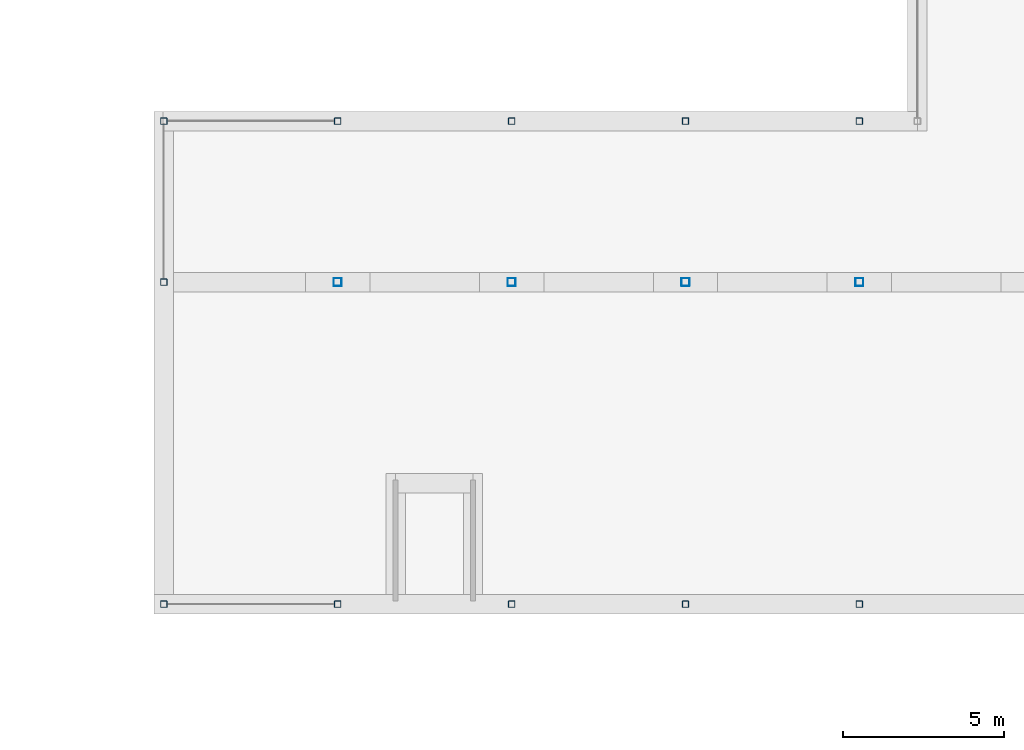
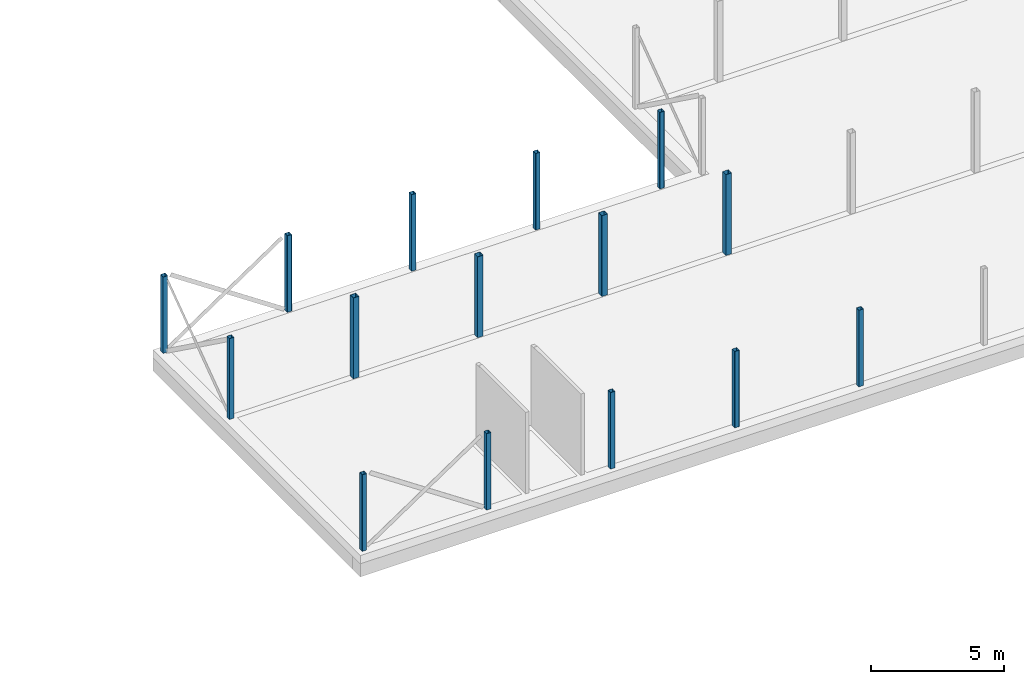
# One storey, part 1 of 12: 15 columns.
"""IFC2X3 building model written with IfcOpenShell, lengths in millimetres."""

from ifc_helpers import new_model, entity, si_unit, converted_unit, derived_unit, direction, frame, frame_2d, origin, place, context, subcontext, project, spatial, polyline, circle_curve, parameter, trimmed, segment, composite_curve, outline, extrude, source, transform, mapped, material, type_object, type_shapes, element, save


model = new_model("IFC2X3")

# Units and contexts
model_context = context("Model", 3, precision=0.01, world=origin(), true_north=direction((6.123031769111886e-17, 1.0)))
body_context = subcontext(model_context, "Body", "Model", "MODEL_VIEW")
ifc_project = project(units=[si_unit("LENGTHUNIT", "METRE", prefix="MILLI"), si_unit("AREAUNIT", "SQUARE_METRE"), si_unit("VOLUMEUNIT", "CUBIC_METRE"), converted_unit("PLANEANGLEUNIT", "DEGREE", entity("IfcPlaneAngleMeasure", 0.017453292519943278), si_unit("PLANEANGLEUNIT", "RADIAN"), dimensions=[0, 0, 0, 0, 0, 0, 0]), si_unit("MASSUNIT", "GRAM", prefix="KILO"), derived_unit("MASSDENSITYUNIT", [(si_unit("MASSUNIT", "GRAM", prefix="KILO"), 1), (si_unit("LENGTHUNIT", "METRE"), -3)]), derived_unit("IONCONCENTRATIONUNIT", [(si_unit("MASSUNIT", "GRAM", prefix="KILO"), 1), (si_unit("LENGTHUNIT", "METRE"), -3)]), derived_unit("MOMENTOFINERTIAUNIT", [(si_unit("LENGTHUNIT", "METRE"), 4)]), si_unit("TIMEUNIT", "SECOND"), si_unit("FREQUENCYUNIT", "HERTZ"), si_unit("THERMODYNAMICTEMPERATUREUNIT", "DEGREE_CELSIUS"), derived_unit("THERMALTRANSMITTANCEUNIT", [(si_unit("MASSUNIT", "GRAM", prefix="KILO"), 1), (si_unit("THERMODYNAMICTEMPERATUREUNIT", "KELVIN"), -1), (si_unit("TIMEUNIT", "SECOND"), -3)]), derived_unit("THERMALCONDUCTANCEUNIT", [(si_unit("MASSUNIT", "GRAM", prefix="KILO"), 1), (si_unit("THERMODYNAMICTEMPERATUREUNIT", "KELVIN"), -1), (si_unit("TIMEUNIT", "SECOND"), -3), (si_unit("LENGTHUNIT", "METRE"), 1)]), derived_unit("VOLUMETRICFLOWRATEUNIT", [(si_unit("LENGTHUNIT", "METRE", prefix="DECI"), 3), (si_unit("TIMEUNIT", "SECOND"), -1)]), derived_unit("MASSFLOWRATEUNIT", [(si_unit("MASSUNIT", "GRAM", prefix="KILO"), 1), (si_unit("TIMEUNIT", "SECOND"), -1)]), derived_unit("ROTATIONALFREQUENCYUNIT", [(si_unit("TIMEUNIT", "SECOND"), -1)]), si_unit("ELECTRICCURRENTUNIT", "AMPERE"), si_unit("ELECTRICVOLTAGEUNIT", "VOLT"), si_unit("POWERUNIT", "WATT"), si_unit("FORCEUNIT", "NEWTON", prefix="KILO"), si_unit("ILLUMINANCEUNIT", "LUX"), si_unit("LUMINOUSFLUXUNIT", "LUMEN"), si_unit("LUMINOUSINTENSITYUNIT", "CANDELA"), si_unit("ENERGYUNIT", "JOULE"), derived_unit("USERDEFINED", [(si_unit("MASSUNIT", "GRAM", prefix="KILO"), -1), (si_unit("LENGTHUNIT", "METRE"), -2), (si_unit("TIMEUNIT", "SECOND"), 3), (si_unit("LUMINOUSFLUXUNIT", "LUMEN"), 1)]), derived_unit("USERDEFINED", [(si_unit("MASSUNIT", "GRAM", prefix="KILO"), 1), (si_unit("TIMEUNIT", "SECOND"), -3), (si_unit("LENGTHUNIT", "METRE"), 3), (si_unit("ELECTRICCURRENTUNIT", "AMPERE"), -2)]), derived_unit("SOUNDPOWERUNIT", [(si_unit("MASSUNIT", "GRAM", prefix="KILO"), 1), (si_unit("TIMEUNIT", "SECOND"), -3), (si_unit("LENGTHUNIT", "METRE"), 2)]), derived_unit("SOUNDPRESSUREUNIT", [(si_unit("MASSUNIT", "GRAM", prefix="KILO"), 1), (si_unit("LENGTHUNIT", "METRE"), -1), (si_unit("TIMEUNIT", "SECOND"), -2)]), derived_unit("LINEARVELOCITYUNIT", [(si_unit("LENGTHUNIT", "METRE"), 1), (si_unit("TIMEUNIT", "SECOND"), -1)]), si_unit("PRESSUREUNIT", "PASCAL"), derived_unit("USERDEFINED", [(si_unit("MASSUNIT", "GRAM", prefix="KILO"), 1), (si_unit("LENGTHUNIT", "METRE"), -2), (si_unit("TIMEUNIT", "SECOND"), -2)]), derived_unit("LINEARFORCEUNIT", [(si_unit("MASSUNIT", "GRAM", prefix="KILO"), 1), (si_unit("TIMEUNIT", "SECOND"), -2)]), derived_unit("PLANARFORCEUNIT", [(si_unit("MASSUNIT", "GRAM", prefix="KILO"), 1), (si_unit("LENGTHUNIT", "METRE"), -1), (si_unit("TIMEUNIT", "SECOND"), -2)]), derived_unit("SPECIFICHEATCAPACITYUNIT", [(si_unit("THERMODYNAMICTEMPERATUREUNIT", "KELVIN"), -1), (si_unit("LENGTHUNIT", "METRE"), 2), (si_unit("TIMEUNIT", "SECOND"), -2)]), derived_unit("HEATFLUXDENSITYUNIT", [(si_unit("MASSUNIT", "GRAM", prefix="KILO"), 1), (si_unit("TIMEUNIT", "SECOND"), -3)]), derived_unit("HEATINGVALUEUNIT", [(si_unit("LENGTHUNIT", "METRE"), 2), (si_unit("TIMEUNIT", "SECOND"), -2)]), derived_unit("VAPORPERMEABILITYUNIT", [(si_unit("LENGTHUNIT", "METRE"), -1), (si_unit("TIMEUNIT", "SECOND"), 1)]), derived_unit("DYNAMICVISCOSITYUNIT", [(si_unit("MASSUNIT", "GRAM", prefix="KILO"), 1), (si_unit("TIMEUNIT", "SECOND"), -1), (si_unit("LENGTHUNIT", "METRE"), -1)]), derived_unit("THERMALEXPANSIONCOEFFICIENTUNIT", [(si_unit("THERMODYNAMICTEMPERATUREUNIT", "KELVIN"), -1)]), derived_unit("MODULUSOFELASTICITYUNIT", [(si_unit("MASSUNIT", "GRAM", prefix="KILO"), 1), (si_unit("LENGTHUNIT", "METRE"), -1), (si_unit("TIMEUNIT", "SECOND"), -2)]), derived_unit("ISOTHERMALMOISTURECAPACITYUNIT", [(si_unit("MASSUNIT", "GRAM", prefix="KILO"), -1), (si_unit("LENGTHUNIT", "METRE"), 3)]), derived_unit("MOISTUREDIFFUSIVITYUNIT", [(si_unit("TIMEUNIT", "SECOND"), -1), (si_unit("LENGTHUNIT", "METRE"), 2)]), derived_unit("MASSPERLENGTHUNIT", [(si_unit("MASSUNIT", "GRAM", prefix="KILO"), 1), (si_unit("LENGTHUNIT", "METRE"), -1)]), derived_unit("THERMALRESISTANCEUNIT", [(si_unit("MASSUNIT", "GRAM", prefix="KILO"), -1), (si_unit("TIMEUNIT", "SECOND"), 3), (si_unit("THERMODYNAMICTEMPERATUREUNIT", "KELVIN"), 1)]), derived_unit("ACCELERATIONUNIT", [(si_unit("LENGTHUNIT", "METRE"), 1), (si_unit("TIMEUNIT", "SECOND"), -2)]), derived_unit("ANGULARVELOCITYUNIT", [(si_unit("TIMEUNIT", "SECOND"), -1), (si_unit("PLANEANGLEUNIT", "RADIAN"), 1)]), derived_unit("LINEARSTIFFNESSUNIT", [(si_unit("MASSUNIT", "GRAM", prefix="KILO"), 1), (si_unit("TIMEUNIT", "SECOND"), -2)]), derived_unit("WARPINGCONSTANTUNIT", [(si_unit("LENGTHUNIT", "METRE"), 6)]), derived_unit("LINEARMOMENTUNIT", [(si_unit("MASSUNIT", "GRAM", prefix="KILO"), 1), (si_unit("LENGTHUNIT", "METRE"), 1), (si_unit("TIMEUNIT", "SECOND"), -2)]), derived_unit("TORQUEUNIT", [(si_unit("MASSUNIT", "GRAM", prefix="KILO"), 1), (si_unit("LENGTHUNIT", "METRE"), 2), (si_unit("TIMEUNIT", "SECOND"), -2)])], contexts=[model_context])

# Site, building, storey
site_placement = place(None, origin())
site = spatial("IfcSite", under=ifc_project, at=site_placement, Name="Default", CompositionType="ELEMENT")
building_placement = place(site_placement, origin())
building = spatial("IfcBuilding", under=site, at=building_placement, CompositionType="ELEMENT")
storey_placement = place(building_placement, origin())
storey = spatial("IfcBuildingStorey", under=building, at=storey_placement, Name="00 begane grond", CompositionType="ELEMENT", Elevation=0.0)

# Columns
ifc_material = material(Name="VRI_staal")
column_type_1 = type_object("IfcColumnType", Name="28_SC_VRI_kolom_staal_koker:K200x200x8", PredefinedType="COLUMN", material=ifc_material)
shared_shape_1 = source(origin(), body_context, "Body", "SweptSolid", [
    extrude(outline(composite_curve([segment(polyline([(-88.0, -100.0), (88.0, -100.0)]), True, "CONTINUOUS"), segment(trimmed(circle_curve(frame_2d((88.0, -88.0), x_axis=(0.0, -1.0)), 12.0), [parameter(359.9999999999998)], [parameter(89.99999999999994)], True, "PARAMETER"), True, "CONTINUOUS"), segment(polyline([(100.0, -88.0), (100.0, 88.0)]), True, "CONTINUOUS"), segment(trimmed(circle_curve(frame_2d((88.0, 88.0), x_axis=(0.0, -1.0)), 12.0), [parameter(90.00000000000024)], [parameter(180.0000000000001)], True, "PARAMETER"), True, "CONTINUOUS"), segment(polyline([(88.0, 100.0), (-88.0, 100.0)]), True, "CONTINUOUS"), segment(trimmed(circle_curve(frame_2d((-88.0, 88.0), x_axis=(0.0, -1.0)), 12.0), [parameter(179.99999999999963)], [parameter(269.9999999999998)], True, "PARAMETER"), True, "CONTINUOUS"), segment(polyline([(-100.0, 88.0), (-100.0, -88.0)]), True, "CONTINUOUS"), segment(trimmed(circle_curve(frame_2d((-88.0, -88.0), x_axis=(0.0, -1.0)), 12.0), [parameter(270.00000000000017)], [parameter(1.0177774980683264e-13)], True, "PARAMETER"), True, "CONTINUOUS")], self_intersect=False), holes=[composite_curve([segment(trimmed(circle_curve(frame_2d((-88.0, 88.0), x_axis=(0.0, -1.0)), 4.0), [parameter(180.0000000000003)], [parameter(270.0000000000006)], True, "PARAMETER"), False, "CONTINUOUS"), segment(polyline([(-88.0, 92.0), (88.0, 92.0)]), True, "CONTINUOUS"), segment(trimmed(circle_curve(frame_2d((88.0, 88.0), x_axis=(0.0, -1.0)), 4.0), [parameter(90.00000000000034)], [parameter(179.99999999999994)], True, "PARAMETER"), False, "CONTINUOUS"), segment(polyline([(92.0, 88.0), (92.0, -88.0)]), True, "CONTINUOUS"), segment(trimmed(circle_curve(frame_2d((88.0, -88.0), x_axis=(0.0, -1.0)), 4.0), [parameter(5.088887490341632e-13)], [parameter(90.00000000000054)], True, "PARAMETER"), False, "CONTINUOUS"), segment(polyline([(88.0, -92.0), (-88.0, -92.0)]), True, "CONTINUOUS"), segment(trimmed(circle_curve(frame_2d((-88.0, -88.0), x_axis=(0.0, -1.0)), 4.0), [parameter(269.9999999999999)], [parameter(0.0)], True, "PARAMETER"), False, "CONTINUOUS"), segment(polyline([(-92.0, -88.0), (-92.0, 88.0)]), True, "CONTINUOUS")], self_intersect=False)]), frame((-5.0, 0.0, -80.0), z_axis=(0.0, 0.0, 1.0), x_axis=(0.0, 1.0, 0.0)), (0.0, 0.0, 1.0), 3515.0),
])
type_shapes(column_type_1, [shared_shape_1])
for number, where in (
    (1, (10005.0, 10000.0, 0.0)),
    (2, (15405.0, 10000.0, 0.0)),
    (3, (20805.0, 10000.0, 0.0)),
    (4, (26205.0, 10000.0, 0.0)),
    (5, (31605.0, 10000.0, 0.0)),
    (6, (10005.0, 25000.0, 0.0)),
    (7, (15405.0, 25000.0, 0.0)),
    (8, (20805.0, 25000.0, 0.0)),
    (9, (26205.0, 25000.0, 0.0)),
    (10, (31605.0, 25000.0, 0.0)),
):
    element("IfcColumn", number, at=place(storey_placement, frame(where)), inside=storey, type_object=column_type_1, material=ifc_material, Name="28_SC_VRI_kolom_staal_koker:K200x200x8", ObjectType="28_SC_VRI_kolom_staal_koker:K200x200x8", context=body_context, shape_type="MappedRepresentation", body=[
        mapped(shared_shape_1, transform((0.0, 0.0, 0.0), scale=1.0)),
    ])
column_type_2 = type_object("IfcColumnType", Name="28_SC_VRI_kolom_staal_koker:K250x250x8", PredefinedType="COLUMN", material=ifc_material)
shared_shape_2 = source(origin(), body_context, "Body", "SweptSolid", [
    extrude(outline(composite_curve([segment(polyline([(-113.0, -125.0), (113.0, -125.0)]), True, "CONTINUOUS"), segment(trimmed(circle_curve(frame_2d((113.0, -113.0), x_axis=(0.0, -1.0)), 12.0), [parameter(359.99999999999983)], [parameter(89.99999999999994)], True, "PARAMETER"), True, "CONTINUOUS"), segment(polyline([(125.0, -113.0), (125.0, 113.0)]), True, "CONTINUOUS"), segment(trimmed(circle_curve(frame_2d((113.0, 113.0), x_axis=(0.0, -1.0)), 12.0), [parameter(90.00000000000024)], [parameter(180.00000000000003)], True, "PARAMETER"), True, "CONTINUOUS"), segment(polyline([(113.0, 125.0), (-113.0, 125.0)]), True, "CONTINUOUS"), segment(trimmed(circle_curve(frame_2d((-113.0, 113.0), x_axis=(0.0, -1.0)), 12.0), [parameter(179.99999999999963)], [parameter(269.9999999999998)], True, "PARAMETER"), True, "CONTINUOUS"), segment(polyline([(-125.0, 113.0), (-125.0, -113.0)]), True, "CONTINUOUS"), segment(trimmed(circle_curve(frame_2d((-113.0, -113.0), x_axis=(0.0, -1.0)), 12.0), [parameter(270.00000000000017)], [parameter(1.0177774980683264e-13)], True, "PARAMETER"), True, "CONTINUOUS")], self_intersect=False), holes=[composite_curve([segment(trimmed(circle_curve(frame_2d((-113.0, 113.0), x_axis=(0.0, -1.0)), 4.0), [parameter(180.0000000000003)], [parameter(270.0000000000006)], True, "PARAMETER"), False, "CONTINUOUS"), segment(polyline([(-113.0, 117.0), (113.0, 117.0)]), True, "CONTINUOUS"), segment(trimmed(circle_curve(frame_2d((113.0, 113.0), x_axis=(0.0, -1.0)), 4.0), [parameter(90.00000000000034)], [parameter(179.9999999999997)], True, "PARAMETER"), False, "CONTINUOUS"), segment(polyline([(117.0, 113.0), (117.0, -113.0)]), True, "CONTINUOUS"), segment(trimmed(circle_curve(frame_2d((113.0, -113.0), x_axis=(0.0, -1.0)), 4.0), [parameter(5.088887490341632e-13)], [parameter(90.00000000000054)], True, "PARAMETER"), False, "CONTINUOUS"), segment(polyline([(113.0, -117.0), (-113.0, -117.0)]), True, "CONTINUOUS"), segment(trimmed(circle_curve(frame_2d((-113.0, -113.0), x_axis=(0.0, -1.0)), 4.0), [parameter(269.9999999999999)], [parameter(0.0)], True, "PARAMETER"), False, "CONTINUOUS"), segment(polyline([(-117.0, -113.0), (-117.0, 113.0)]), True, "CONTINUOUS")], self_intersect=False)]), frame((-5.0, 0.0, -80.0), z_axis=(0.0, 0.0, 1.0), x_axis=(0.0, 1.0, 0.0)), (0.0, 0.0, 1.0), 3715.0),
])
type_shapes(column_type_2, [shared_shape_2])
for number, where in (
    (11, (26205.0, 20000.0, 0.0)),
    (12, (20805.0, 20000.0, 0.0)),
    (13, (15405.0, 20000.0, 0.0)),
    (14, (31605.0, 20000.0, 0.0)),
):
    element("IfcColumn", number, at=place(storey_placement, frame(where)), inside=storey, type_object=column_type_2, material=ifc_material, Name="28_SC_VRI_kolom_staal_koker:K250x250x8", ObjectType="28_SC_VRI_kolom_staal_koker:K250x250x8", context=body_context, shape_type="MappedRepresentation", body=[
        mapped(shared_shape_2, transform((0.0, 0.0, 0.0), scale=1.0)),
    ])
column_type_3 = type_object("IfcColumnType", Name="28_SC_VRI_kolom_staal_koker:K200x200x8", PredefinedType="COLUMN", material=ifc_material)
shared_shape_3 = source(origin(), body_context, "Body", "SweptSolid", [
    extrude(outline(composite_curve([segment(polyline([(-88.0, -100.0), (88.0, -100.0)]), True, "CONTINUOUS"), segment(trimmed(circle_curve(frame_2d((88.0, -88.0), x_axis=(0.0, -1.0)), 12.0), [parameter(359.9999999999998)], [parameter(89.99999999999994)], True, "PARAMETER"), True, "CONTINUOUS"), segment(polyline([(100.0, -88.0), (100.0, 88.0)]), True, "CONTINUOUS"), segment(trimmed(circle_curve(frame_2d((88.0, 88.0), x_axis=(0.0, -1.0)), 12.0), [parameter(90.00000000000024)], [parameter(180.0000000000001)], True, "PARAMETER"), True, "CONTINUOUS"), segment(polyline([(88.0, 100.0), (-88.0, 100.0)]), True, "CONTINUOUS"), segment(trimmed(circle_curve(frame_2d((-88.0, 88.0), x_axis=(0.0, -1.0)), 12.0), [parameter(179.99999999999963)], [parameter(269.9999999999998)], True, "PARAMETER"), True, "CONTINUOUS"), segment(polyline([(-100.0, 88.0), (-100.0, -88.0)]), True, "CONTINUOUS"), segment(trimmed(circle_curve(frame_2d((-88.0, -88.0), x_axis=(0.0, -1.0)), 12.0), [parameter(270.00000000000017)], [parameter(1.0177774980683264e-13)], True, "PARAMETER"), True, "CONTINUOUS")], self_intersect=False), holes=[composite_curve([segment(trimmed(circle_curve(frame_2d((-88.0, 88.0), x_axis=(0.0, -1.0)), 4.0), [parameter(180.0000000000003)], [parameter(270.0000000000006)], True, "PARAMETER"), False, "CONTINUOUS"), segment(polyline([(-88.0, 92.0), (88.0, 92.0)]), True, "CONTINUOUS"), segment(trimmed(circle_curve(frame_2d((88.0, 88.0), x_axis=(0.0, -1.0)), 4.0), [parameter(90.00000000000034)], [parameter(179.99999999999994)], True, "PARAMETER"), False, "CONTINUOUS"), segment(polyline([(92.0, 88.0), (92.0, -88.0)]), True, "CONTINUOUS"), segment(trimmed(circle_curve(frame_2d((88.0, -88.0), x_axis=(0.0, -1.0)), 4.0), [parameter(5.088887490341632e-13)], [parameter(90.00000000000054)], True, "PARAMETER"), False, "CONTINUOUS"), segment(polyline([(88.0, -92.0), (-88.0, -92.0)]), True, "CONTINUOUS"), segment(trimmed(circle_curve(frame_2d((-88.0, -88.0), x_axis=(0.0, -1.0)), 4.0), [parameter(269.9999999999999)], [parameter(0.0)], True, "PARAMETER"), False, "CONTINUOUS"), segment(polyline([(-92.0, -88.0), (-92.0, 88.0)]), True, "CONTINUOUS")], self_intersect=False)]), frame((-5.0, 0.0, -80.0), z_axis=(0.0, 0.0, 1.0), x_axis=(0.0, 1.0, 0.0)), (0.0, 0.0, 1.0), 3715.0),
])
type_shapes(column_type_3, [shared_shape_3])
column_placement = place(storey_placement, frame((10005.0, 20000.0, 0.0)))
element("IfcColumn", 15, at=column_placement, inside=storey, type_object=column_type_3, material=ifc_material, Name="28_SC_VRI_kolom_staal_koker:K200x200x8", ObjectType="28_SC_VRI_kolom_staal_koker:K200x200x8", context=body_context, shape_type="MappedRepresentation", body=[
    mapped(shared_shape_3, transform((0.0, 0.0, 0.0), scale=1.0)),
])

save(model, "model.ifc")
